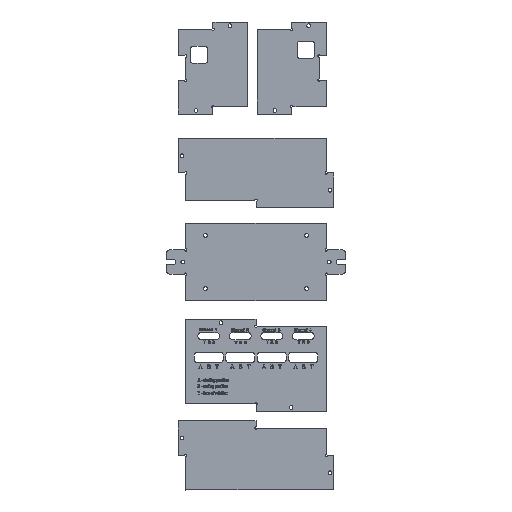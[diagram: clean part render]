
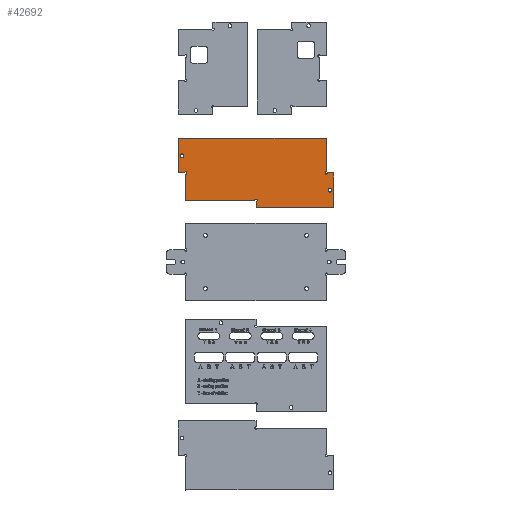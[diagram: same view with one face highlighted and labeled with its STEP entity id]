
A CAD part, top view. The second image highlights one B-rep face of the part: STEP entity #42692.
In plain terms, the highlighted planar face has unit normal (0, 0, 1).
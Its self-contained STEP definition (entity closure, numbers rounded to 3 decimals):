
#4054=FACE_BOUND('',#6716,.T.);
#4055=FACE_BOUND('',#6717,.T.);
#4309=FACE_OUTER_BOUND('',#6715,.T.);
#6715=EDGE_LOOP('',(#28528,#28529,#28530,#28531,#28532,#28533,#28534,#28535,
#28536,#28537,#28538,#28539,#28540));
#6716=EDGE_LOOP('',(#28541));
#6717=EDGE_LOOP('',(#28542));
#9350=LINE('',#52906,#13226);
#9351=LINE('',#52909,#13227);
#9356=LINE('',#52918,#13232);
#9357=LINE('',#52921,#13233);
#9362=LINE('',#52939,#13238);
#9365=LINE('',#52945,#13241);
#9369=LINE('',#52951,#13245);
#9372=LINE('',#52957,#13248);
#9373=LINE('',#52959,#13249);
#9375=LINE('',#52962,#13251);
#13226=VECTOR('',#46510,10.);
#13227=VECTOR('',#46513,10.);
#13232=VECTOR('',#46520,10.);
#13233=VECTOR('',#46523,10.);
#13238=VECTOR('',#46542,10.);
#13241=VECTOR('',#46547,10.);
#13245=VECTOR('',#46553,10.);
#13248=VECTOR('',#46558,10.);
#13249=VECTOR('',#46561,10.);
#13251=VECTOR('',#46565,10.);
#17056=CIRCLE('',#45118,1.);
#17058=CIRCLE('',#45121,1.);
#17060=CIRCLE('',#45124,1.);
#17063=CIRCLE('',#45132,1.5);
#17065=CIRCLE('',#45135,1.5);
#17254=VERTEX_POINT('',#52875);
#17255=VERTEX_POINT('',#52876);
#17258=VERTEX_POINT('',#52884);
#17259=VERTEX_POINT('',#52885);
#17262=VERTEX_POINT('',#52893);
#17263=VERTEX_POINT('',#52894);
#17267=VERTEX_POINT('',#52904);
#17268=VERTEX_POINT('',#52908);
#17271=VERTEX_POINT('',#52916);
#17272=VERTEX_POINT('',#52920);
#17275=VERTEX_POINT('',#52928);
#17277=VERTEX_POINT('',#52934);
#17278=VERTEX_POINT('',#52938);
#17280=VERTEX_POINT('',#52944);
#17283=VERTEX_POINT('',#52955);
#21724=EDGE_CURVE('',#17254,#17255,#17056,.T.);
#21728=EDGE_CURVE('',#17258,#17259,#17058,.T.);
#21732=EDGE_CURVE('',#17262,#17263,#17060,.T.);
#21738=EDGE_CURVE('',#17267,#17255,#9350,.T.);
#21739=EDGE_CURVE('',#17254,#17268,#9351,.T.);
#21744=EDGE_CURVE('',#17271,#17263,#9356,.T.);
#21745=EDGE_CURVE('',#17262,#17272,#9357,.T.);
#21750=EDGE_CURVE('',#17275,#17275,#17063,.T.);
#21753=EDGE_CURVE('',#17277,#17277,#17065,.T.);
#21754=EDGE_CURVE('',#17272,#17278,#9362,.T.);
#21757=EDGE_CURVE('',#17268,#17280,#9365,.T.);
#21761=EDGE_CURVE('',#17271,#17280,#9369,.T.);
#21764=EDGE_CURVE('',#17259,#17283,#9372,.T.);
#21765=EDGE_CURVE('',#17283,#17278,#9373,.T.);
#21767=EDGE_CURVE('',#17267,#17258,#9375,.T.);
#28528=ORIENTED_EDGE('',*,*,#21724,.T.);
#28529=ORIENTED_EDGE('',*,*,#21738,.F.);
#28530=ORIENTED_EDGE('',*,*,#21767,.T.);
#28531=ORIENTED_EDGE('',*,*,#21728,.T.);
#28532=ORIENTED_EDGE('',*,*,#21764,.T.);
#28533=ORIENTED_EDGE('',*,*,#21765,.T.);
#28534=ORIENTED_EDGE('',*,*,#21754,.F.);
#28535=ORIENTED_EDGE('',*,*,#21745,.F.);
#28536=ORIENTED_EDGE('',*,*,#21732,.T.);
#28537=ORIENTED_EDGE('',*,*,#21744,.F.);
#28538=ORIENTED_EDGE('',*,*,#21761,.T.);
#28539=ORIENTED_EDGE('',*,*,#21757,.F.);
#28540=ORIENTED_EDGE('',*,*,#21739,.F.);
#28541=ORIENTED_EDGE('',*,*,#21750,.T.);
#28542=ORIENTED_EDGE('',*,*,#21753,.T.);
#41672=PLANE('',#45142);
#42692=ADVANCED_FACE('',(#4309,#4054,#4055),#41672,.T.);
#45118=AXIS2_PLACEMENT_3D('',#52877,#46484,#46485);
#45121=AXIS2_PLACEMENT_3D('',#52886,#46492,#46493);
#45124=AXIS2_PLACEMENT_3D('',#52895,#46500,#46501);
#45132=AXIS2_PLACEMENT_3D('',#52930,#46531,#46532);
#45135=AXIS2_PLACEMENT_3D('',#52936,#46538,#46539);
#45142=AXIS2_PLACEMENT_3D('',#52964,#46567,#46568);
#46484=DIRECTION('center_axis',(0.,0.,-1.));
#46485=DIRECTION('ref_axis',(-1.,0.,0.));
#46492=DIRECTION('center_axis',(0.,0.,-1.));
#46493=DIRECTION('ref_axis',(-1.,0.,0.));
#46500=DIRECTION('center_axis',(0.,0.,-1.));
#46501=DIRECTION('ref_axis',(-1.,0.,0.));
#46510=DIRECTION('',(0.,1.,0.));
#46513=DIRECTION('',(-1.,0.,0.));
#46520=DIRECTION('',(0.,-1.,0.));
#46523=DIRECTION('',(1.,0.,0.));
#46531=DIRECTION('center_axis',(0.,0.,-1.));
#46532=DIRECTION('ref_axis',(1.,0.,0.));
#46538=DIRECTION('center_axis',(0.,0.,-1.));
#46539=DIRECTION('ref_axis',(1.,0.,0.));
#46542=DIRECTION('',(0.,-1.,0.));
#46547=DIRECTION('',(0.,1.,0.));
#46553=DIRECTION('',(-1.,0.,0.));
#46558=DIRECTION('',(0.,-1.,0.));
#46561=DIRECTION('',(1.,0.,0.));
#46565=DIRECTION('',(1.,0.,0.));
#46567=DIRECTION('center_axis',(0.,0.,1.));
#46568=DIRECTION('ref_axis',(0.,-1.,0.));
#52875=CARTESIAN_POINT('',(-6.,100.5,0.));
#52876=CARTESIAN_POINT('',(-5.,99.5,0.));
#52877=CARTESIAN_POINT('Origin',(-5.,100.5,0.));
#52884=CARTESIAN_POINT('',(52.,78.,0.));
#52885=CARTESIAN_POINT('',(53.,77.,0.));
#52886=CARTESIAN_POINT('Origin',(53.,78.,0.));
#52893=CARTESIAN_POINT('',(112.,100.5,0.));
#52894=CARTESIAN_POINT('',(111.,101.5,0.));
#52895=CARTESIAN_POINT('Origin',(111.,100.5,0.));
#52904=CARTESIAN_POINT('',(-5.,78.,0.));
#52906=CARTESIAN_POINT('',(-5.,123.,0.));
#52908=CARTESIAN_POINT('',(-11.,100.5,0.));
#52909=CARTESIAN_POINT('',(-5.,100.5,0.));
#52916=CARTESIAN_POINT('',(111.,129.,0.));
#52918=CARTESIAN_POINT('',(111.,78.,0.));
#52920=CARTESIAN_POINT('',(117.,100.5,0.));
#52921=CARTESIAN_POINT('',(111.,100.5,0.));
#52928=CARTESIAN_POINT('',(112.5,86.25,0.));
#52930=CARTESIAN_POINT('Origin',(114.,86.25,0.));
#52934=CARTESIAN_POINT('',(-9.5,114.75,0.));
#52936=CARTESIAN_POINT('Origin',(-8.,114.75,0.));
#52938=CARTESIAN_POINT('',(117.,72.,0.));
#52939=CARTESIAN_POINT('',(117.,72.,0.));
#52944=CARTESIAN_POINT('',(-11.,129.,0.));
#52945=CARTESIAN_POINT('',(-11.,100.5,0.));
#52951=CARTESIAN_POINT('',(-5.,129.,0.));
#52955=CARTESIAN_POINT('',(53.,72.,0.));
#52957=CARTESIAN_POINT('',(53.,78.,0.));
#52959=CARTESIAN_POINT('',(111.,72.,0.));
#52962=CARTESIAN_POINT('',(111.,78.,0.));
#52964=CARTESIAN_POINT('Origin',(53.,100.5,0.));
